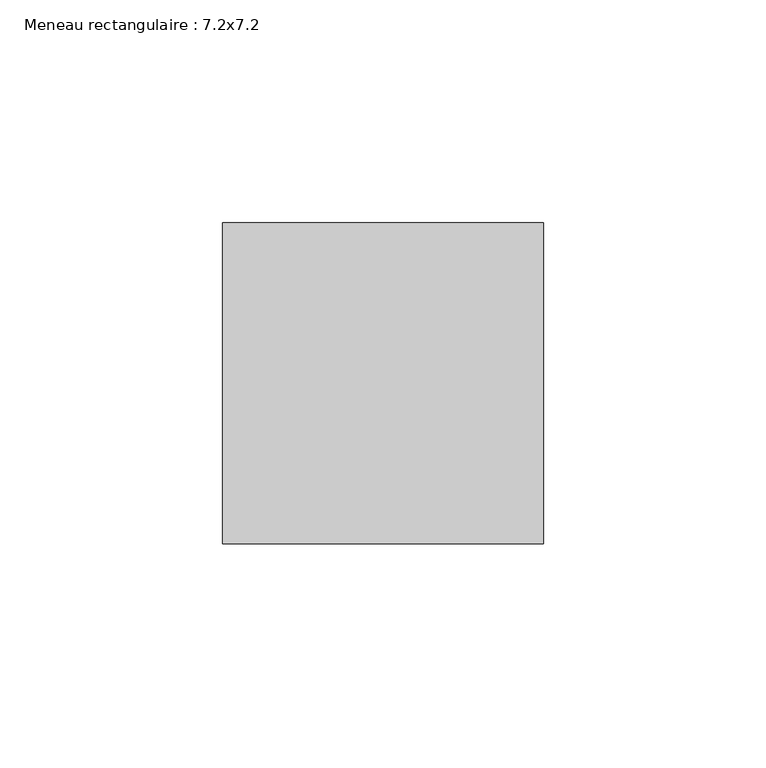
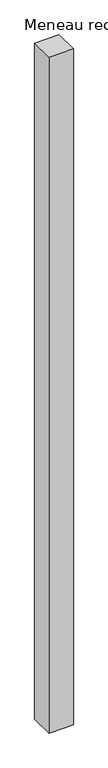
"""IFC4 building model written with IfcOpenShell, lengths in millimetres: member geometry, Meneau rectangulaire : 7.2x7.2."""

from ifc_helpers import new_model, si_unit, frame, origin, place, context, project, spatial, polyline, outline, extrude, source, transform, mapped, element, save


def meneau_rectangulaire_7_2x7_2_b3278d25(model_context):
    return source(origin(), model_context, "Body", "SweptSolid", [
        extrude(outline(polyline([(0.0, 36.0), (0.0, -36.0), (-72.0, -36.0), (-72.0, 36.0), (0.0, 36.0)])), frame((0.0, 0.0, -2100.0), z_axis=(0.0, 0.0, 1.0), x_axis=(1.0, 0.0, 0.0)), (0.0, 0.0, 1.0), 2100.0),
    ])


if __name__ == "__main__":
    model = new_model("IFC4")
    model_context = context("Model", 3, world=origin())
    ifc_project = project(units=[si_unit("LENGTHUNIT", "METRE", prefix="MILLI")], contexts=[model_context])
    site = spatial("IfcSite", under=ifc_project)
    building = spatial("IfcBuilding", under=site)
    placement = place(None, origin())
    meneau_rectangulaire_7_2x7_2_shape = meneau_rectangulaire_7_2x7_2_b3278d25(model_context)
    element("IfcMember", 1, ObjectType="Meneau rectangulaire : 7.2x7.2", at=placement, inside=building, context=model_context, shape_type="MappedRepresentation", body=[
        mapped(meneau_rectangulaire_7_2x7_2_shape, transform((0.0, 0.0, 0.0), x_axis=(1.0, 0.0, 0.0), y_axis=(0.0, 1.0, 0.0), z_axis=(0.0, 0.0, 1.0))),
    ])
    save(model, "model.ifc")
